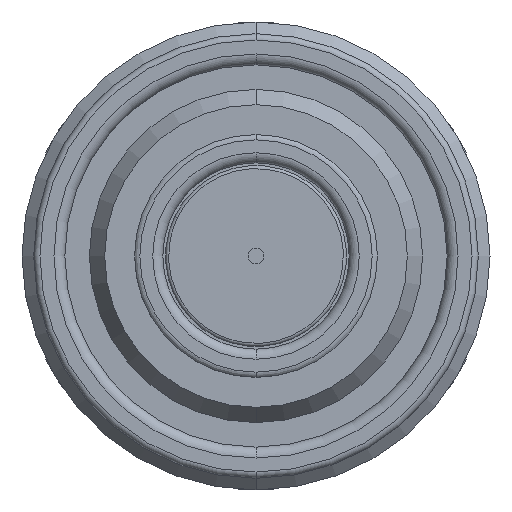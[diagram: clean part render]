
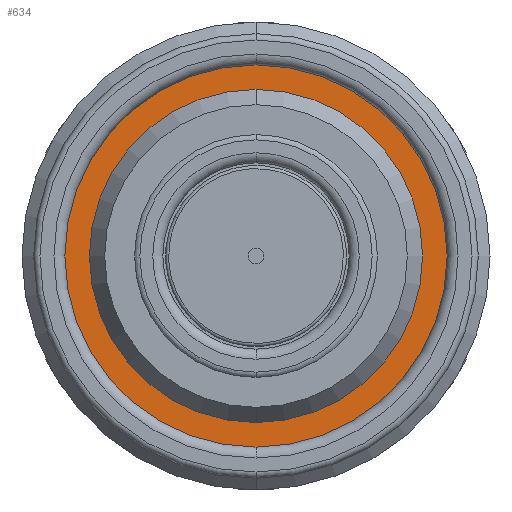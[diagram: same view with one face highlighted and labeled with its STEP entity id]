
A CAD part, front view. The second image highlights one B-rep face of the part: STEP entity #634.
In plain terms, the highlighted planar face has unit normal (0, -1, 0) by its records, which use the part's own axes.
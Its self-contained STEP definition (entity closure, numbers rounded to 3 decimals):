
#286=PLANE('',#2873);
#330=FACE_BOUND('',#1011,.T.);
#331=FACE_BOUND('',#1012,.T.);
#634=ADVANCED_FACE('',(#330,#331),#286,.T.);
#1011=EDGE_LOOP('',(#1305,#1306));
#1012=EDGE_LOOP('',(#1307,#1308));
#1305=ORIENTED_EDGE('',*,*,#2246,.T.);
#1306=ORIENTED_EDGE('',*,*,#2247,.T.);
#1307=ORIENTED_EDGE('',*,*,#2245,.F.);
#1308=ORIENTED_EDGE('',*,*,#2243,.F.);
#1987=VERTEX_POINT('',#4269);
#1988=VERTEX_POINT('',#4271);
#1989=VERTEX_POINT('',#4277);
#1990=VERTEX_POINT('',#4278);
#2243=EDGE_CURVE('',#1987,#1988,#2606,.T.);
#2245=EDGE_CURVE('',#1988,#1987,#2607,.T.);
#2246=EDGE_CURVE('',#1989,#1990,#2608,.T.);
#2247=EDGE_CURVE('',#1990,#1989,#2609,.T.);
#2606=CIRCLE('',#2867,10.68);
#2607=CIRCLE('',#2869,10.68);
#2608=CIRCLE('',#2871,13.9);
#2609=CIRCLE('',#2872,13.9);
#2867=AXIS2_PLACEMENT_3D('',#4270,#3390,#3391);
#2869=AXIS2_PLACEMENT_3D('',#4274,#3395,#3396);
#2871=AXIS2_PLACEMENT_3D('',#4276,#3399,#3400);
#2872=AXIS2_PLACEMENT_3D('',#4279,#3401,#3402);
#2873=AXIS2_PLACEMENT_3D('',#4280,#3403,#3404);
#3390=DIRECTION('',(0.,-1.,0.));
#3391=DIRECTION('',(0.,0.,-1.));
#3395=DIRECTION('',(0.,-1.,0.));
#3396=DIRECTION('',(0.,0.,-1.));
#3399=DIRECTION('',(0.,-1.,0.));
#3400=DIRECTION('',(0.,0.,-1.));
#3401=DIRECTION('',(0.,-1.,0.));
#3402=DIRECTION('',(0.,0.,-1.));
#3403=DIRECTION('',(0.,-1.,0.));
#3404=DIRECTION('',(0.,0.,-1.));
#4269=CARTESIAN_POINT('',(0.,0.1,-10.68));
#4270=CARTESIAN_POINT('',(0.,0.1,0.));
#4271=CARTESIAN_POINT('',(0.,0.1,10.68));
#4274=CARTESIAN_POINT('',(0.,0.1,0.));
#4276=CARTESIAN_POINT('',(0.,0.1,0.));
#4277=CARTESIAN_POINT('',(0.,0.1,-13.9));
#4278=CARTESIAN_POINT('',(0.,0.1,13.9));
#4279=CARTESIAN_POINT('',(0.,0.1,0.));
#4280=CARTESIAN_POINT('',(0.,0.1,0.));
